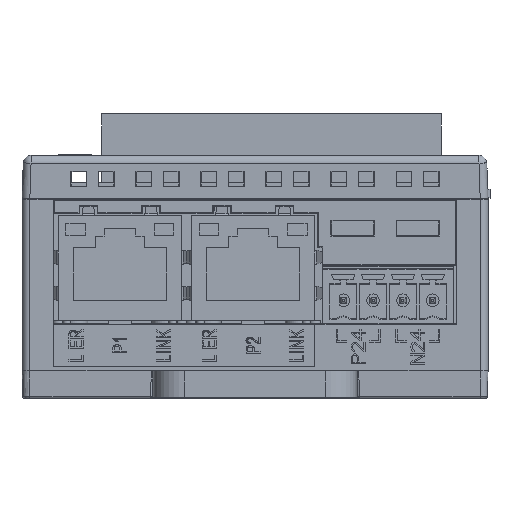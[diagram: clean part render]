
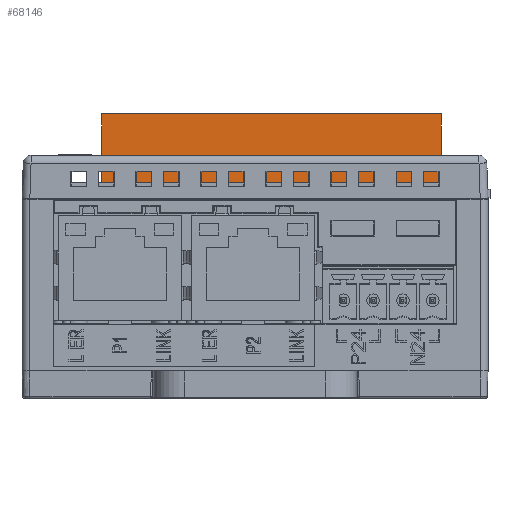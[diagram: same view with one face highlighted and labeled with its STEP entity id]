
A CAD part, front view. The second image highlights one B-rep face of the part: STEP entity #68146.
In plain terms, the highlighted planar face has unit normal (0, -1, 0).
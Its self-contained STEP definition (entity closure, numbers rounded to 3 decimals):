
#1930=DIRECTION('',(1.,0.,0.));
#1931=VECTOR('',#1930,43.3);
#1932=CARTESIAN_POINT('',(-19.55,-19.15,27.5));
#1933=LINE('',#1932,#1931);
#4366=DIRECTION('',(0.,0.,-1.));
#4367=VECTOR('',#4366,8.8);
#4368=CARTESIAN_POINT('',(23.75,-19.15,36.3));
#4369=LINE('',#4368,#4367);
#4374=DIRECTION('',(0.,0.,-1.));
#4375=VECTOR('',#4374,8.8);
#4376=CARTESIAN_POINT('',(-19.55,-19.15,36.3));
#4377=LINE('',#4376,#4375);
#4378=DIRECTION('',(-1.,0.,0.));
#4379=VECTOR('',#4378,43.3);
#4380=CARTESIAN_POINT('',(23.75,-19.15,36.3));
#4381=LINE('',#4380,#4379);
#49589=CARTESIAN_POINT('',(-19.55,-19.15,36.3));
#49591=VERTEX_POINT('',#49589);
#49595=CARTESIAN_POINT('',(23.75,-19.15,36.3));
#49596=VERTEX_POINT('',#49595);
#62147=CARTESIAN_POINT('',(-19.55,-19.15,27.5));
#62149=VERTEX_POINT('',#62147);
#62150=CARTESIAN_POINT('',(23.75,-19.15,27.5));
#62151=VERTEX_POINT('',#62150);
#68134=CARTESIAN_POINT('',(2.1,-19.15,31.7));
#68135=DIRECTION('',(0.,1.,0.));
#68136=DIRECTION('',(1.,0.,0.));
#68137=AXIS2_PLACEMENT_3D('',#68134,#68135,#68136);
#68138=PLANE('',#68137);
#68139=ORIENTED_EDGE('',*,*,#64291,.F.);
#68140=ORIENTED_EDGE('',*,*,#68080,.F.);
#68142=ORIENTED_EDGE('',*,*,#68141,.F.);
#68143=ORIENTED_EDGE('',*,*,#68119,.T.);
#68144=EDGE_LOOP('',(#68139,#68140,#68142,#68143));
#68145=FACE_OUTER_BOUND('',#68144,.F.);
#68146=ADVANCED_FACE('',(#68145),#68138,.F.);
#64291=EDGE_CURVE('',#62149,#62151,#1933,.T.);
#68080=EDGE_CURVE('',#49591,#62149,#4377,.T.);
#68119=EDGE_CURVE('',#49596,#62151,#4369,.T.);
#68141=EDGE_CURVE('',#49596,#49591,#4381,.T.);
